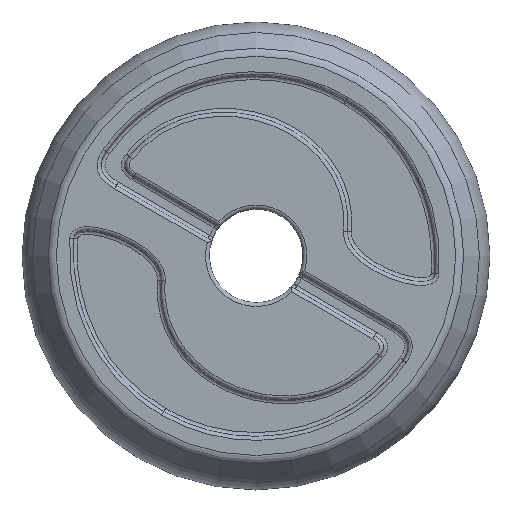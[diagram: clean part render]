
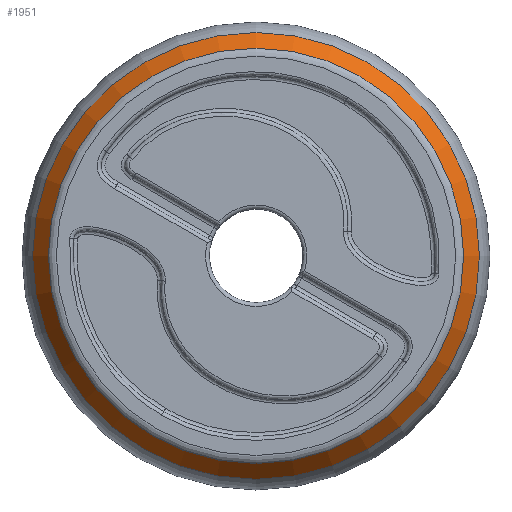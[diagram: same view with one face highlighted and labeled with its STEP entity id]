
A CAD part, top view. The second image highlights one B-rep face of the part: STEP entity #1951.
In plain terms, the highlighted conical face has half-angle 35 degrees and reference radius 11.25 mm.
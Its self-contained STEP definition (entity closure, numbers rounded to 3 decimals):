
#19=CONICAL_SURFACE('',#2042,11.25,0.611);
#89=CIRCLE('',#2040,10.649);
#91=CIRCLE('',#2043,11.457);
#92=CIRCLE('',#2044,11.457);
#171=LINE('',#9991,#243);
#243=VECTOR('',#2272,11.25);
#381=FACE_OUTER_BOUND('',#509,.T.);
#509=EDGE_LOOP('',(#1721,#1722,#1723,#1724,#1725));
#866=VERTEX_POINT('',#9986);
#867=VERTEX_POINT('',#9990);
#868=VERTEX_POINT('',#9992);
#1156=EDGE_CURVE('',#866,#866,#89,.T.);
#1158=EDGE_CURVE('',#866,#867,#171,.T.);
#1159=EDGE_CURVE('',#868,#867,#91,.T.);
#1160=EDGE_CURVE('',#867,#868,#92,.T.);
#1721=ORIENTED_EDGE('',*,*,#1156,.F.);
#1722=ORIENTED_EDGE('',*,*,#1158,.T.);
#1723=ORIENTED_EDGE('',*,*,#1159,.F.);
#1724=ORIENTED_EDGE('',*,*,#1160,.F.);
#1725=ORIENTED_EDGE('',*,*,#1158,.F.);
#1951=ADVANCED_FACE('',(#381),#19,.T.);
#2040=AXIS2_PLACEMENT_3D('',#9987,#2266,#2267);
#2042=AXIS2_PLACEMENT_3D('',#9989,#2270,#2271);
#2043=AXIS2_PLACEMENT_3D('',#9993,#2273,#2274);
#2044=AXIS2_PLACEMENT_3D('',#9994,#2275,#2276);
#2266=DIRECTION('center_axis',(0.,0.,
1.));
#2267=DIRECTION('ref_axis',(-1.,0.,0.));
#2270=DIRECTION('center_axis',(0.,0.,-1.));
#2271=DIRECTION('ref_axis',(-1.,0.,0.));
#2272=DIRECTION('',(0.574,0.,-0.819));
#2273=DIRECTION('center_axis',(0.,0.,
-1.));
#2274=DIRECTION('ref_axis',(-1.,0.,0.));
#2275=DIRECTION('center_axis',(0.,0.,
-1.));
#2276=DIRECTION('ref_axis',(-1.,0.,0.));
#9986=CARTESIAN_POINT('',(69.649,135.835,7.825));
#9987=CARTESIAN_POINT('Origin',(59.,135.835,7.825));
#9989=CARTESIAN_POINT('Origin',(59.,135.835,6.967));
#9990=CARTESIAN_POINT('',(70.457,135.835,6.671));
#9991=CARTESIAN_POINT('',(70.25,135.835,6.967));
#9992=CARTESIAN_POINT('',(47.543,135.835,6.671));
#9993=CARTESIAN_POINT('Origin',(59.,135.835,6.671));
#9994=CARTESIAN_POINT('Origin',(59.,135.835,6.671));
